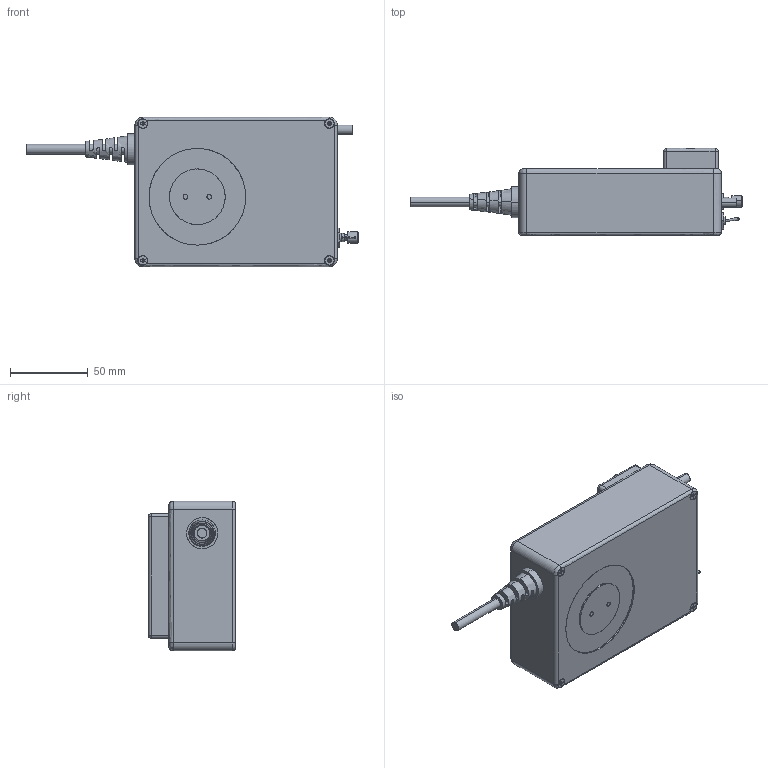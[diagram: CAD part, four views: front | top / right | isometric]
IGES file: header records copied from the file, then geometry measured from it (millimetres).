
Start section: SolidWorks IGES file using analytic representation for surfaces
Bounding box: 213.33 x 56 x 96 mm (x, y, z)
Surface area: 78120.9 mm2 (no closed solid volume)
Topology: 0 solids, 0 shells, 887 faces, 9790 edges, 9787 vertices
Faces by surface type: revolution 448, bspline 439
